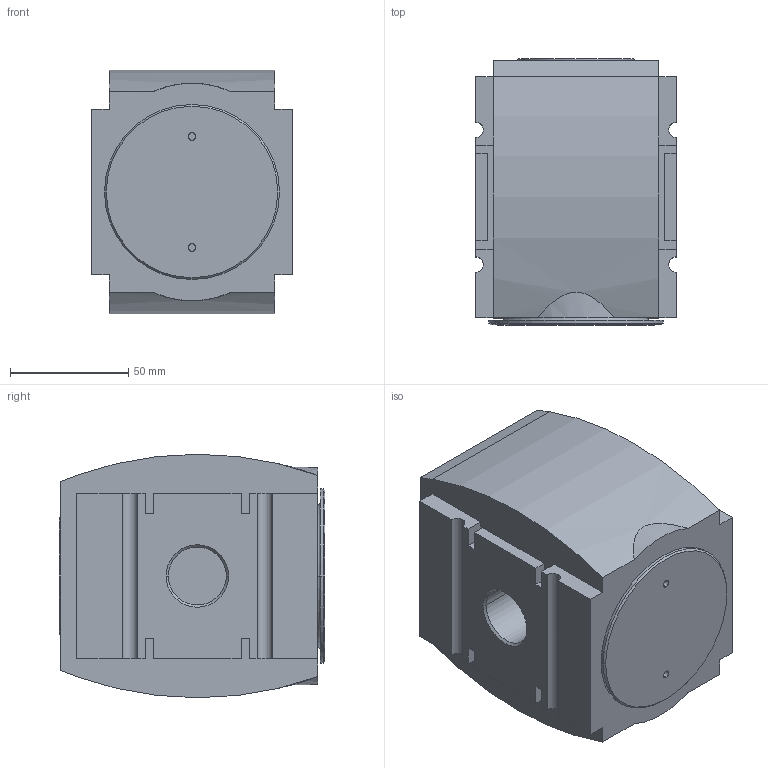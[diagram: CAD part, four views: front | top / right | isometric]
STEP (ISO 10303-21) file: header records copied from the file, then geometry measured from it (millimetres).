
FILE_DESCRIPTION((''),'2;1');
FILE_NAME('R412009272_ASM','2015-05-12T',('pma1hc'),(''),'PRO/ENGINEER BY PARAMETRIC TECHNOLOGY CORPORATION, 2011490','PRO/ENGINEER BY PARAMETRIC TECHNOLOGY CORPORATION, 2011490','');
FILE_SCHEMA(('AUTOMOTIVE_DESIGN_CC2 { 1 2 10303 214 -1 1 5 2 }'));
Length unit declared in the file: millimetre
Products named in the file (2): R412009272; R412009272_ASM
Assembly tree (1 placements, depth 2):
  R412009272_ASM
    R412009272
Bounding box: 85 x 112.5 x 103 mm (x, y, z)
Volume: 827239.9 mm3; surface area: 63990.5 mm2
Topology: 1 solids, 1 shells, 87 faces, 228 edges, 150 vertices
Faces by surface type: plane 59, cylinder 20, cone 6, torus 2
Entity records: 4169 total; most frequent: CARTESIAN_POINT 556, DIRECTION 456, ORIENTED_EDGE 456, PRESENTATION_STYLE_ASSIGNMENT 286, STYLED_ITEM 229, CURVE_STYLE 228, EDGE_CURVE 228, VECTOR 176
